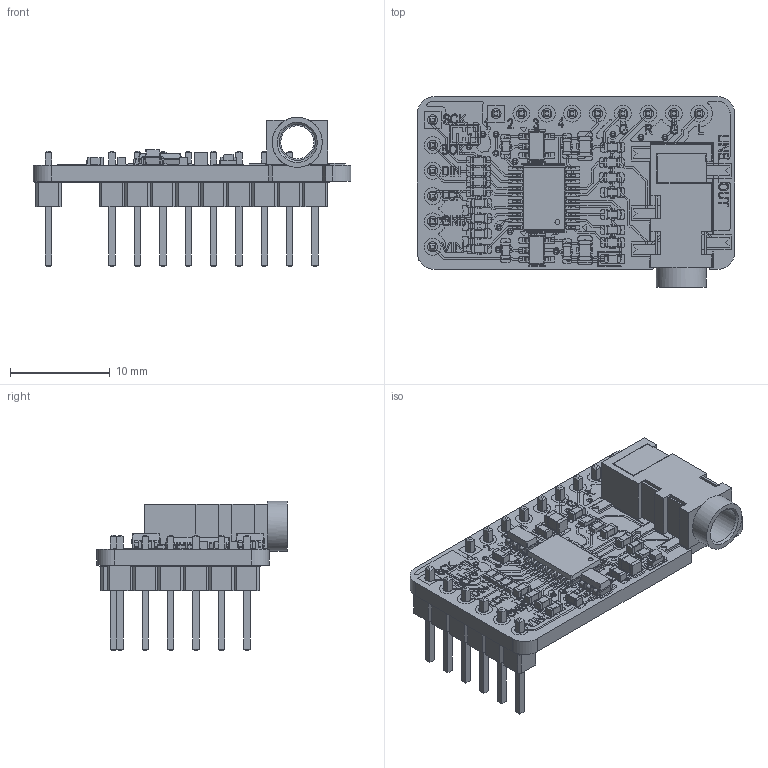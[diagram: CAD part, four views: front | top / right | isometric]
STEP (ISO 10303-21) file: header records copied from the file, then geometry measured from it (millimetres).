
FILE_DESCRIPTION(('FreeCAD Model'),'2;1');
FILE_NAME('Open CASCADE Shape Model','2025-02-16T16:49:43',( 'kicad StepUp'),('ksu MCAD'),'Open CASCADE STEP processor 7.8', 'FreeCAD','Unknown');
FILE_SCHEMA(('AUTOMOTIVE_DESIGN { 1 0 10303 214 1 1 1 1 }'));
Length unit declared in the file: millimetre
Products named in the file (23): PCM5102_Modul; Step_Models_e102; Top_e102; C13_C_0603_1608Metric_fe494fe29558; U3_SOT_23_5_215b9efe0f9c; U2_TSSOP_20_44x65mm_P065mm_d0068de2549f; R7_R_0603_1608Metric_fcd2d6c932f5; C2_C_0805_2012Metric_0ac201e7e1f9; J3_PJ-327A_7183a15533ae; D1_LED_0603_1608Metric_b5c2f6ca02fa; Bot_e102; J2_PinHeader_1x09_P254mm_Vertical_94b9bb8abd76; J1_PinHeader_1x06_P254mm_Vertical_a7862d32d6b2; Board_Geoms_e102; Pcb_e102; topPads_e102; topTracks_e102; topZones_e102; botPads_e102; botTracks_e102; botZones_e102; botSilks_75df; topSilks_780b
Assembly tree (42 placements, depth 4):
  PCM5102_Modul
    Step_Models_e102
      Top_e102
        C13_C_0603_1608Metric_fe494fe29558  x12
        U3_SOT_23_5_215b9efe0f9c  x2
        U2_TSSOP_20_44x65mm_P065mm_d0068de2549f
        R7_R_0603_1608Metric_fcd2d6c932f5  x7
        C2_C_0805_2012Metric_0ac201e7e1f9  x2
        J3_PJ-327A_7183a15533ae  x2
        D1_LED_0603_1608Metric_b5c2f6ca02fa
      Bot_e102
        J2_PinHeader_1x09_P254mm_Vertical_94b9bb8abd76
        J1_PinHeader_1x06_P254mm_Vertical_a7862d32d6b2
    Board_Geoms_e102
      Pcb_e102
      topPads_e102
      topTracks_e102
      topZones_e102
      botPads_e102
      botTracks_e102
      botZones_e102
      botSilks_75df
      topSilks_780b
Bounding box: 31.8 x 19.1 x 14.94 mm (x, y, z)
Volume: 1624.7 mm3; surface area: 4209.4 mm2
Topology: 30 solids, 462 shells, 2217 faces, 15773 edges, 14067 vertices
Faces by surface type: plane 1725, cylinder 384, bspline 102, torus 4, cone 2
Full cylindrical faces by diameter (mm): 0.5 x1, 0.8 x4, 1 x15, 1.1 x2, 3.3 x2, 3.6 x2, 5 x2
Entity records: 139859 total; most frequent: CARTESIAN_POINT 28607, DIRECTION 17998, ORIENTED_EDGE 16694, EDGE_CURVE 13919, VERTEX_POINT 12898, LINE 12580, VECTOR 12580, AXIS2_PLACEMENT_3D 2709
